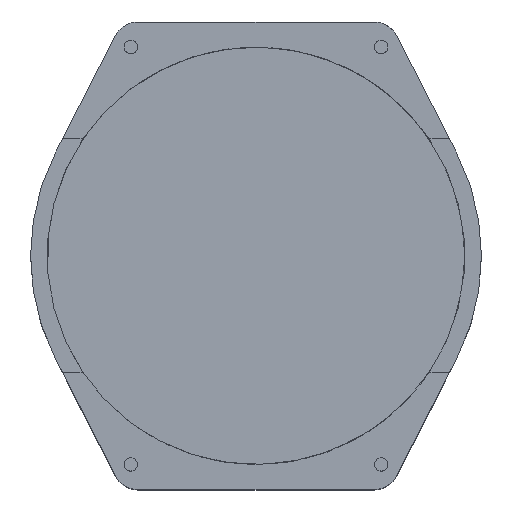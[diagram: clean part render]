
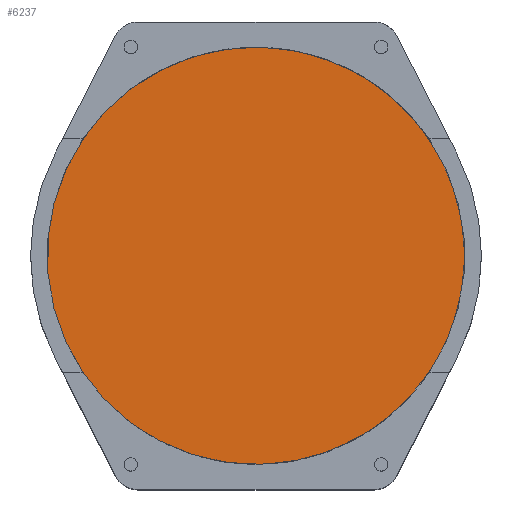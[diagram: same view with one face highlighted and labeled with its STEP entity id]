
A CAD part, top view. The second image highlights one B-rep face of the part: STEP entity #6237.
In plain terms, the highlighted planar face has unit normal (0, 0, 1).
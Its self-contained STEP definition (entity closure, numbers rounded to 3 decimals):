
#5955=CARTESIAN_POINT('',(-5.551,11.2,14.4));
#5956=VERTEX_POINT('',#5955);
#5957=CARTESIAN_POINT('',(0.0,0.0,14.4));
#5958=DIRECTION('',(0.0,0.0,-1.0));
#5959=DIRECTION('',(-1.0,0.0,0.0));
#5960=AXIS2_PLACEMENT_3D('',#5957,#5958,#5959);
#5961=CIRCLE('',#5960,12.5);
#5962=EDGE_CURVE('',#5956,#5956,#5961,.T.);
#6229=CARTESIAN_POINT('',(0.,0.,14.4));
#6230=DIRECTION('',(0.0,0.0,1.0));
#6231=DIRECTION('',(1.0,0.0,0.0));
#6232=AXIS2_PLACEMENT_3D('',#6229,#6230,#6231);
#6233=PLANE('',#6232);
#6234=ORIENTED_EDGE('',*,*,#5962,.F.);
#6235=EDGE_LOOP('',(#6234));
#6236=FACE_OUTER_BOUND('',#6235,.T.);
#6237=ADVANCED_FACE('',(#6236),#6233,.T.);
